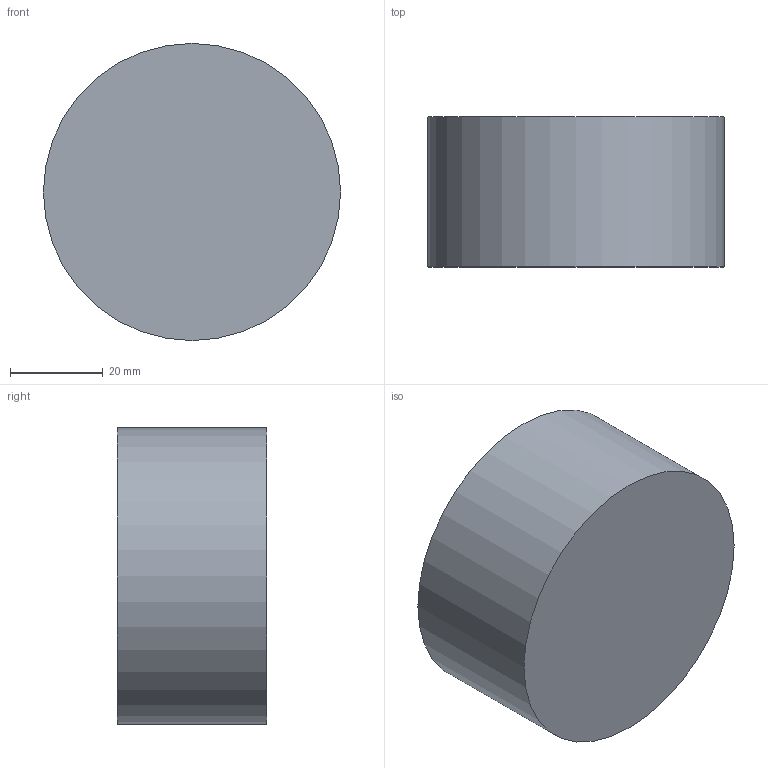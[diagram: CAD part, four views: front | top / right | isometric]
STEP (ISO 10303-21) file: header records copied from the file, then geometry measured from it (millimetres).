
FILE_DESCRIPTION(('Open CASCADE Model'),'2;1');
FILE_NAME('Open CASCADE Shape Model','2026-10-10T15:34:57',('Author'),( 'Open CASCADE'),'Open CASCADE STEP processor 7.9','Open CASCADE 7.9' ,'Unknown');
FILE_SCHEMA(('AUTOMOTIVE_DESIGN { 1 0 10303 214 1 1 1 1 }'));
Length unit declared in the file: millimetre
Products named in the file (1): Open CASCADE STEP translator 7.9 18
Bounding box: 64 x 32.3 x 64 mm (x, y, z)
Volume: 103908.8 mm3; surface area: 12928.3 mm2
Topology: 1 solids, 1 shells, 3 faces, 3 edges, 2 vertices
Faces by surface type: plane 2, cylinder 1
Full cylindrical faces by diameter (mm): 64 x1
Entity records: 108 total; most frequent: DIRECTION 19, CARTESIAN_POINT 15, AXIS2_PLACEMENT_3D 6, ORIENTED_EDGE 6, PCURVE 6, DEFINITIONAL_REPRESENTATION 6, LINE 5, VECTOR 5
